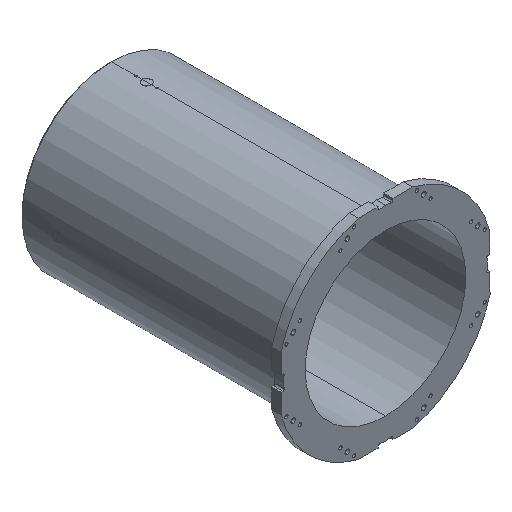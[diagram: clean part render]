
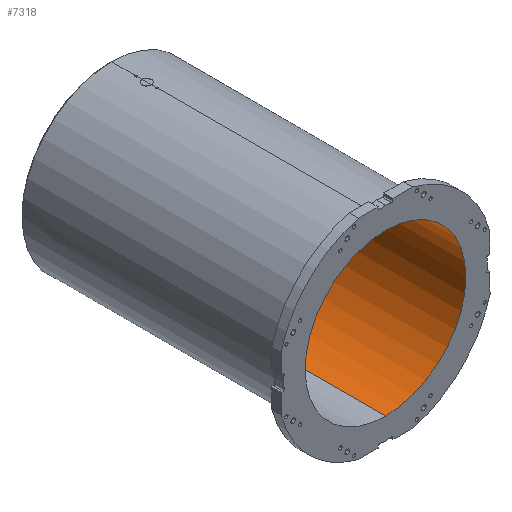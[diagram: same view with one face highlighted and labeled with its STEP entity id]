
A CAD part, isometric view. The second image highlights one B-rep face of the part: STEP entity #7318.
In plain terms, the highlighted cylindrical face has radius 350 mm (diameter 700 mm), a partial arc.
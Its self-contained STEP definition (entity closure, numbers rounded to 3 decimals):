
#338 = AXIS2_PLACEMENT_3D ( 'NONE', #6092, #5112, #12020 ) ;
#478 = VERTEX_POINT ( 'NONE', #6514 ) ;
#618 = DIRECTION ( 'NONE',  ( 0., 1., 0. ) ) ;
#689 = EDGE_CURVE ( 'NONE', #10803, #5843, #10324, .T. ) ;
#992 = CARTESIAN_POINT ( 'NONE',  ( 0., 0., 0. ) ) ;
#1053 = AXIS2_PLACEMENT_3D ( 'NONE', #992, #4964, #12657 ) ;
#1601 = CIRCLE ( 'NONE', #338, 350. ) ;
#1855 = ORIENTED_EDGE ( 'NONE', *, *, #3562, .F. ) ;
#3496 = ORIENTED_EDGE ( 'NONE', *, *, #689, .T. ) ;
#3540 = DIRECTION ( 'NONE',  ( 0., 1., 0. ) ) ;
#3562 = EDGE_CURVE ( 'NONE', #8373, #5843, #6584, .T. ) ;
#3629 = VECTOR ( 'NONE', #3540, 1000. ) ;
#3808 = DIRECTION ( 'NONE',  ( 0., 1., 0. ) ) ;
#3922 = CARTESIAN_POINT ( 'NONE',  ( 0., 0., -350. ) ) ;
#4964 = DIRECTION ( 'NONE',  ( 0., 1., 0. ) ) ;
#5112 = DIRECTION ( 'NONE',  ( 0., 1., 0. ) ) ;
#5587 = LINE ( 'NONE', #7518, #10876 ) ;
#5843 = VERTEX_POINT ( 'NONE', #11329 ) ;
#6092 = CARTESIAN_POINT ( 'NONE',  ( 0., 0., 0. ) ) ;
#6514 = CARTESIAN_POINT ( 'NONE',  ( 0., 0., 350. ) ) ;
#6584 = LINE ( 'NONE', #10494, #3629 ) ;
#6680 = EDGE_LOOP ( 'NONE', ( #1855, #10497, #11525, #3496 ) ) ;
#6898 = CARTESIAN_POINT ( 'NONE',  ( 0., 1163., 350. ) ) ;
#7318 = ADVANCED_FACE ( 'NONE', ( #8797 ), #10859, .F. ) ;
#7518 = CARTESIAN_POINT ( 'NONE',  ( 0., 0., 350. ) ) ;
#8043 = AXIS2_PLACEMENT_3D ( 'NONE', #12661, #3808, #11686 ) ;
#8373 = VERTEX_POINT ( 'NONE', #3922 ) ;
#8797 = FACE_OUTER_BOUND ( 'NONE', #6680, .T. ) ;
#9352 = EDGE_CURVE ( 'NONE', #478, #8373, #1601, .T. ) ;
#10189 = EDGE_CURVE ( 'NONE', #478, #10803, #5587, .T. ) ;
#10324 = CIRCLE ( 'NONE', #8043, 350. ) ;
#10494 = CARTESIAN_POINT ( 'NONE',  ( 0., 0., -350. ) ) ;
#10497 = ORIENTED_EDGE ( 'NONE', *, *, #9352, .F. ) ;
#10803 = VERTEX_POINT ( 'NONE', #6898 ) ;
#10859 = CYLINDRICAL_SURFACE ( 'NONE', #1053, 350. ) ;
#10876 = VECTOR ( 'NONE', #618, 1000. ) ;
#11329 = CARTESIAN_POINT ( 'NONE',  ( 0., 1163., -350. ) ) ;
#11525 = ORIENTED_EDGE ( 'NONE', *, *, #10189, .T. ) ;
#11686 = DIRECTION ( 'NONE',  ( 0., 0., 1. ) ) ;
#12020 = DIRECTION ( 'NONE',  ( 0., 0., 1. ) ) ;
#12657 = DIRECTION ( 'NONE',  ( 0., 0., 1. ) ) ;
#12661 = CARTESIAN_POINT ( 'NONE',  ( 0., 1163., 0. ) ) ;
